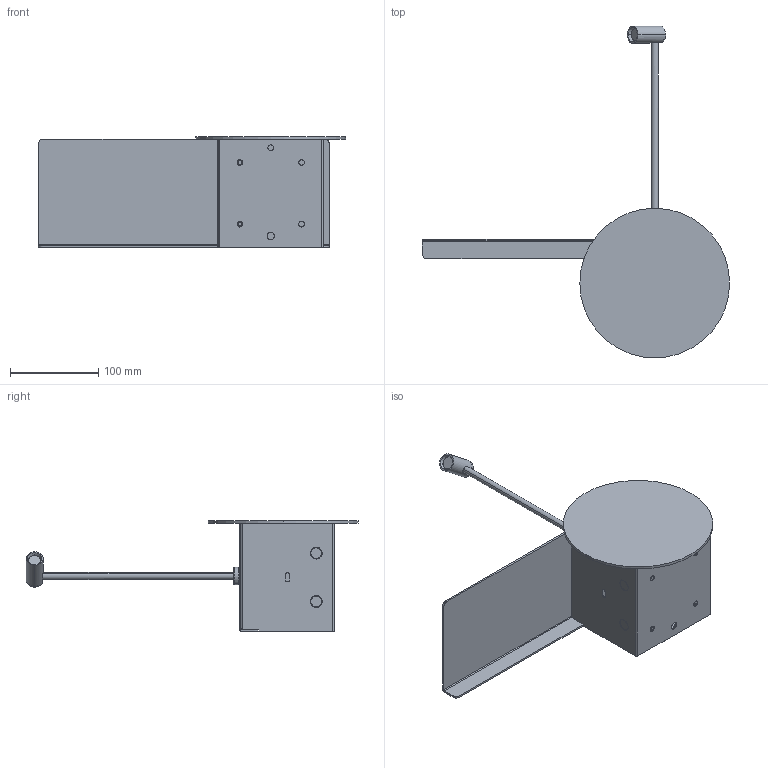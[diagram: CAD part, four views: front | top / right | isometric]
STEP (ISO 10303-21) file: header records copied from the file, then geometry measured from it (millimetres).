
FILE_DESCRIPTION((''),'2;1');
FILE_NAME('WHISTLE_DX_SW0001','2025-05-15T12:24:41',('elena.baldelli'),(''),'CREO PARAMETRIC BY PTC INC, 2020354','CREO PARAMETRIC BY PTC INC, 2020354','');
FILE_SCHEMA(('CONFIG_CONTROL_DESIGN'));
Length unit declared in the file: millimetre
Products named in the file (1): WHISTLE_DX_SW0001
Bounding box: 348.75 x 376.95 x 126 mm (x, y, z)
Surface area: 300002.3 mm2 (no closed solid volume)
Topology: 0 solids, 11 shells, 263 faces, 926 edges, 662 vertices
Faces by surface type: cylinder 146, plane 109, torus 6, cone 2
Entity records: 20557 total; most frequent: CARTESIAN_POINT 12255, DIRECTION 1789, ORIENTED_EDGE 1580, EDGE_CURVE 926, VERTEX_POINT 662, AXIS2_PLACEMENT_3D 647, VECTOR 495, LINE 495
